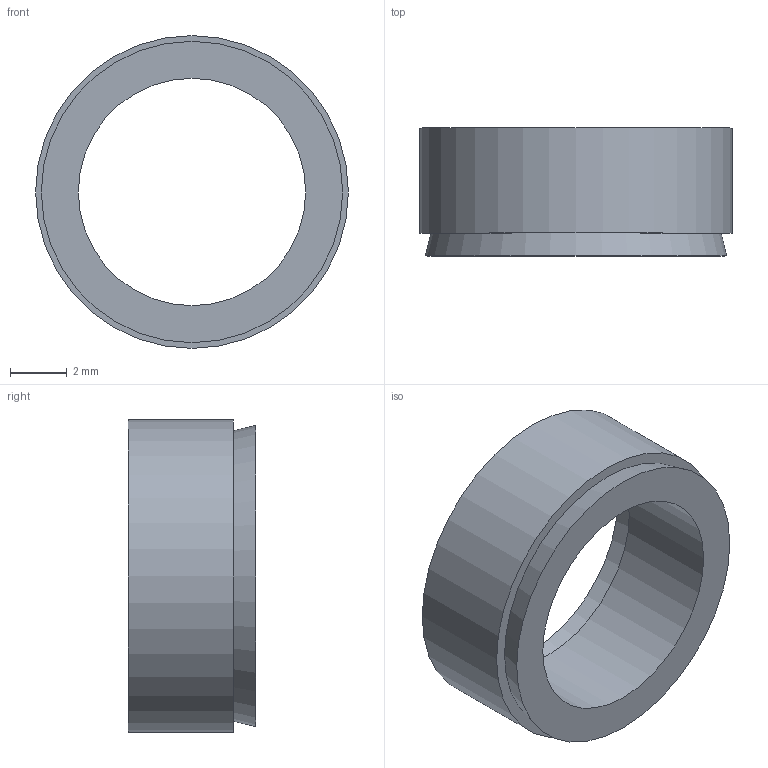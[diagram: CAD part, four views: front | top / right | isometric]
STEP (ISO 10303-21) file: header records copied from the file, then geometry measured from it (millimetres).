
FILE_DESCRIPTION( ( 'Unknown' ), '1' );
FILE_NAME( 'C:/Dokumente und Einstellungen/Sven/Desktop/homepage/cad - homepage/KBS50/KBS 50 - 8 x 11.stp', 'Unknown', ( 'Unknown' ), ( 'Unknown' ), 'XStep 1.0', 'Unknown', ' ' );
FILE_SCHEMA( ( 'automotive_design' ) );
Length unit declared in the file: millimetre
Products named in the file (1): 1
Bounding box: 11 x 4.5 x 11 mm (x, y, z)
Volume: 187.2 mm3; surface area: 371.2 mm2
Topology: 1 solids, 1 shells, 8 faces, 12 edges, 8 vertices
Faces by surface type: plane 4, cylinder 2, cone 2
Full cylindrical faces by diameter (mm): 8 x1, 11 x1
Entity records: 248 total; most frequent: DIRECTION 34, CARTESIAN_POINT 25, AXIS2_PLACEMENT_3D 17, EDGE_LOOP 16, ORIENTED_EDGE 16, FACE_OUTER_BOUND 10, STYLED_ITEM 8, PRESENTATION_STYLE_ASSIGNMENT 8
